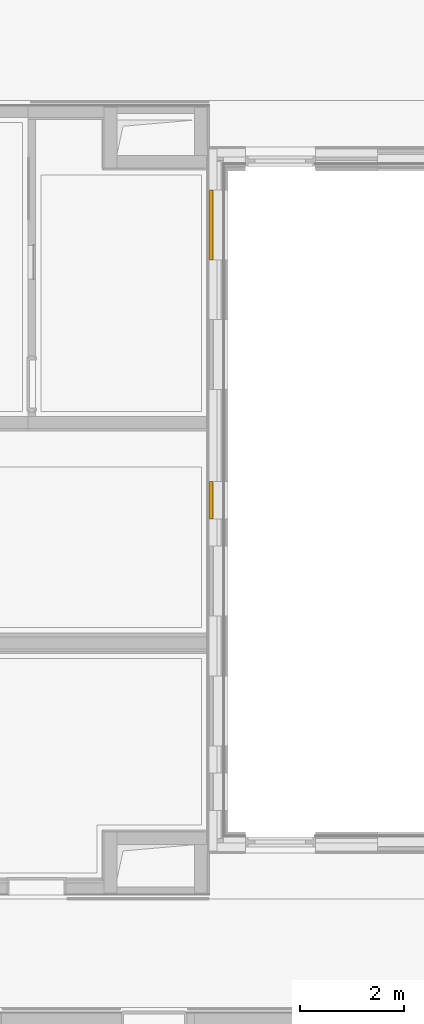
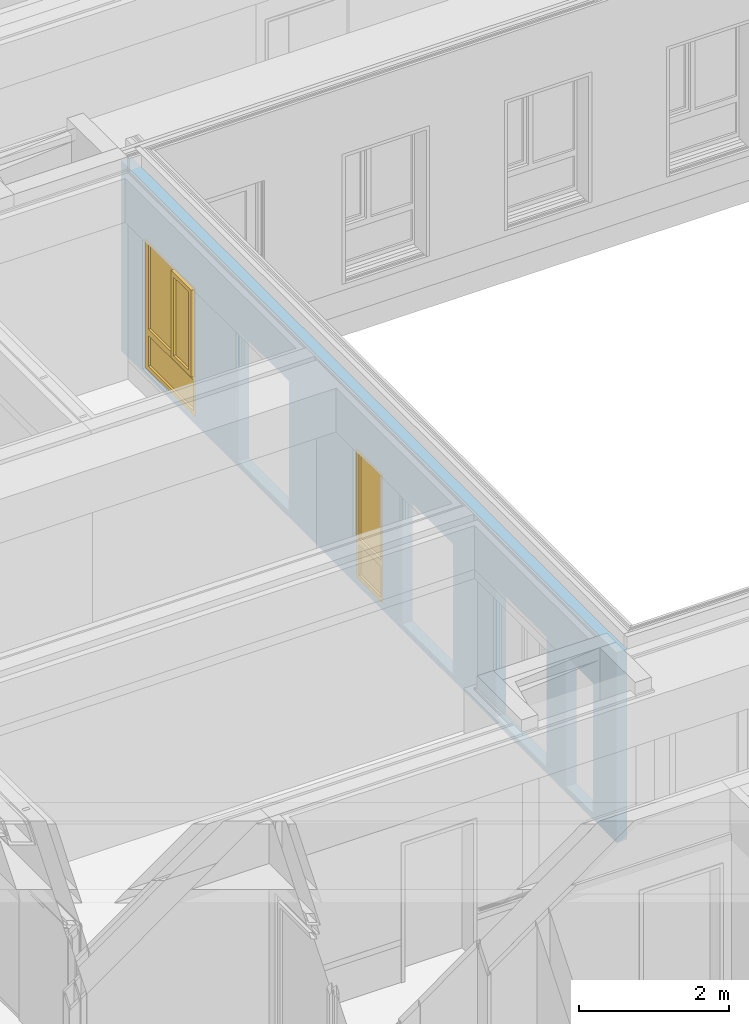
# One storey, part 130 of 207: 2 windows, 6 openings, plus 1 element that does not belong to this part.
"""IFC4 building model written with IfcOpenShell, lengths in metres."""

from ifc_helpers import new_model, entity, si_unit, converted_unit, derived_unit, frame, frame_2d, origin, origin_with_axes, place, context, subcontext, project, spatial, polyline, rectangle, outline, extrude, closed_shell, open_shell, surface_model, source, transform, mapped, material, element, fill, save


model = new_model("IFC4")

# Units and contexts
model_context = context("Model", 3, precision=1e-05, world=origin())
body_context = subcontext(model_context, "Body", "Model", "MODEL_VIEW")
ifc_project = project(units=[si_unit("LENGTHUNIT", "METRE"), si_unit("AREAUNIT", "SQUARE_METRE"), si_unit("VOLUMEUNIT", "CUBIC_METRE"), si_unit("MASSUNIT", "GRAM", prefix="KILO"), converted_unit("PLANEANGLEUNIT", "DEGREE", entity("IfcPlaneAngleMeasure", 0.0174532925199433), si_unit("PLANEANGLEUNIT", "RADIAN"), dimensions=[0, 0, 0, 0, 0, 0, 0]), derived_unit("THERMALTRANSMITTANCEUNIT", [(si_unit("POWERUNIT", "WATT"), 1), (si_unit("THERMODYNAMICTEMPERATUREUNIT", "KELVIN"), -1), (si_unit("LENGTHUNIT", "METRE"), -2)]), derived_unit("VOLUMETRICFLOWRATEUNIT", [(si_unit("LENGTHUNIT", "METRE"), 3), (converted_unit("TIMEUNIT", "hour", entity("IfcTimeMeasure", 3600.0), si_unit("TIMEUNIT", "SECOND"), dimensions=[0, 0, 1, 0, 0, 0, 0]), -1), (si_unit("LENGTHUNIT", "METRE"), -1)])], contexts=[model_context])

# Site, building, storey
site_placement = place(None, origin())
site = spatial("IfcSite", under=ifc_project, at=site_placement, Name="Psychiatrie Neubau Wunstorf", CompositionType="ELEMENT")
building_placement = place(site_placement, origin())
building = spatial("IfcBuilding", under=site, at=building_placement, Name="Neubau H2 Stationsgebäude", CompositionType="ELEMENT")
storey_placement = place(building_placement, frame((0.0, 0.0, -0.2)))
storey = spatial("IfcBuildingStorey", under=building, at=storey_placement, Name="H2 Ebene 0", CompositionType="ELEMENT", Elevation=-0.2)

# Wall, openings, windows
ifc_material = material(Name="WA-HD")
wall_placement = place(storey_placement, frame((79.175, 21.84, 0.5), z_axis=(0.0, 0.0, 1.0), x_axis=(0.0, -1.0, 0.0)))
wall = element("IfcWall", 1, at=wall_placement, inside=storey, material=ifc_material, context=body_context, shape_type="SweptSolid", body=[
    extrude(rectangle(XDim=13.23, YDim=0.16, at=frame_2d((6.615, 0.08), x_axis=(1.0, 0.0))), origin_with_axes(), (0.0, 0.0, 1.0), 3.1),
])
opening_1_placement = place(wall_placement, frame((12.6049999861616, 0.16, 0.1), z_axis=(0.0, -1.0, 0.0), x_axis=(0.0, 0.0, 1.0)))
element("IfcOpeningElement", 2, at=opening_1_placement, cuts=wall, Name="Fensteröffnung", ObjectType="Opening", context=body_context, shape_type="SweptSolid", body=[
    extrude(outline(polyline([(2.12, 0.725), (2.12, 0.0), (0.0, 0.0), (0.0, 0.725), (2.12, 0.725)])), origin_with_axes(), (0.0, 0.0, 1.0), 0.16),
])
opening_2_placement = place(wall_placement, frame((11.3565865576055, 0.16, 0.1), z_axis=(0.0, -1.0, 0.0), x_axis=(0.0, 0.0, 1.0)))
element("IfcOpeningElement", 3, at=opening_2_placement, cuts=wall, Name="Fensteröffnung", ObjectType="Opening", context=body_context, shape_type="SweptSolid", body=[
    extrude(outline(polyline([(2.12, 1.35), (2.12, 0.0), (0.0, 0.0), (0.0, 1.35), (2.12, 1.35)])), origin_with_axes(), (0.0, 0.0, 1.0), 0.16),
])
opening_3_placement = place(wall_placement, frame((8.85664410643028, 0.16, 0.1), z_axis=(0.0, -1.0, 0.0), x_axis=(0.0, 0.0, 1.0)))
element("IfcOpeningElement", 4, at=opening_3_placement, cuts=wall, Name="Fensteröffnung", ObjectType="Opening", context=body_context, shape_type="SweptSolid", body=[
    extrude(outline(polyline([(2.12, 1.35), (2.12, 0.0), (0.0, 0.0), (0.0, 1.35), (2.12, 1.35)])), origin_with_axes(), (0.0, 0.0, 1.0), 0.16),
])
opening_4_placement = place(wall_placement, frame((4.48200463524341, 0.160000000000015, 0.1), z_axis=(0.0, -1.0, 0.0), x_axis=(0.0, 0.0, 1.0)))
element("IfcOpeningElement", 5, at=opening_4_placement, cuts=wall, Name="Fensteröffnung", ObjectType="Opening", context=body_context, shape_type="SweptSolid", body=[
    extrude(outline(polyline([(2.12, 1.35), (2.12, 0.0), (0.0, 0.0), (0.0, 1.35), (2.12, 1.35)])), origin_with_axes(), (0.0, 0.0, 1.0), 0.16),
])
opening_5_placement = place(wall_placement, frame((1.98244477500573, 0.16, 0.1), z_axis=(0.0, -1.0, 0.0), x_axis=(0.0, 0.0, 1.0)))
opening_5 = element("IfcOpeningElement", 6, at=opening_5_placement, cuts=wall, Name="Fensteröffnung", ObjectType="Opening", context=body_context, shape_type="SweptSolid", body=[
    extrude(outline(polyline([(2.12, 1.35), (2.12, 0.0), (0.0, 0.0), (0.0, 1.35), (2.12, 1.35)])), origin_with_axes(), (0.0, 0.0, 1.0), 0.16),
])
opening_6_placement = place(wall_placement, frame((6.98238722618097, 0.16, 0.1), z_axis=(0.0, -1.0, 0.0), x_axis=(0.0, 0.0, 1.0)))
opening_6 = element("IfcOpeningElement", 7, at=opening_6_placement, cuts=wall, Name="Fensteröffnung", ObjectType="Opening", context=body_context, shape_type="SweptSolid", body=[
    extrude(outline(polyline([(2.12, 0.725), (2.12, 0.0), (0.0, 0.0), (0.0, 0.725), (2.12, 0.725)])), origin_with_axes(), (0.0, 0.0, 1.0), 0.16),
])
shared_shape_1 = source(origin_with_axes(), body_context, "Body", "SurfaceModel", [
    surface_model("IfcShellBasedSurfaceModel", [(1.35000000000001, 0.0, 2.12), (1.35000000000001, 0.0, 0.0), (1.28000000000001, 0.0, 0.0), (1.28000000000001, 0.0, 2.12), (1.35000000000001, 0.0699999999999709, 0.0), (1.35000000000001, 0.0699999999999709, 2.12), (1.28000000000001, 0.0699999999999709, 2.12), (1.28000000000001, 0.0699999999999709, 0.0)], [closed_shell([[[0, 1, 2, 3]], [[4, 5, 6, 7]], [[1, 0, 5, 4]], [[2, 1, 4, 7]], [[3, 2, 7, 6]], [[0, 3, 6, 5]]], orient=[[False], [False], [False], [False], [False], [False]])]),
    surface_model("IfcShellBasedSurfaceModel", [(0.0700000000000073, 0.0, 2.12), (0.0700000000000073, 0.0, 0.0), (0.0, 0.0, 0.0), (0.0, 0.0, 2.12), (0.0700000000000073, 0.0699999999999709, 0.0), (0.0700000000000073, 0.0699999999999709, 2.12), (0.0, 0.0699999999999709, 2.12), (0.0, 0.0699999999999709, 0.0)], [closed_shell([[[0, 1, 2, 3]], [[4, 5, 6, 7]], [[1, 0, 5, 4]], [[2, 1, 4, 7]], [[3, 2, 7, 6]], [[0, 3, 6, 5]]], orient=[[False], [False], [False], [False], [False], [False]])]),
    surface_model("IfcShellBasedSurfaceModel", [(1.28000000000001, 0.0, 0.07), (1.28000000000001, 0.0, 0.0), (0.0700000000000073, 0.0, 0.0), (0.0700000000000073, 0.0, 0.07), (1.28000000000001, 0.0699999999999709, 0.0), (1.28000000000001, 0.0699999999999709, 0.07), (0.0700000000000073, 0.0699999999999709, 0.07), (0.0700000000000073, 0.0699999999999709, 0.0)], [closed_shell([[[0, 1, 2, 3]], [[4, 5, 6, 7]], [[1, 0, 5, 4]], [[2, 1, 4, 7]], [[3, 2, 7, 6]], [[0, 3, 6, 5]]], orient=[[False], [False], [False], [False], [False], [False]])]),
    surface_model("IfcShellBasedSurfaceModel", [(1.28000000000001, 0.0, 2.12), (1.28000000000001, 0.0, 2.05), (0.0700000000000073, 0.0, 2.05), (0.0700000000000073, 0.0, 2.12), (1.28000000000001, 0.0699999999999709, 2.05), (1.28000000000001, 0.0699999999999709, 2.12), (0.0700000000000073, 0.0699999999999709, 2.12), (0.0700000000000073, 0.0699999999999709, 2.05)], [closed_shell([[[0, 1, 2, 3]], [[4, 5, 6, 7]], [[1, 0, 5, 4]], [[2, 1, 4, 7]], [[3, 2, 7, 6]], [[0, 3, 6, 5]]], orient=[[False], [False], [False], [False], [False], [False]])]),
    surface_model("IfcShellBasedSurfaceModel", [(1.28000000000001, 0.0, 0.67), (1.28000000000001, 0.0, 0.57), (0.0700000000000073, 0.0, 0.57), (0.0700000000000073, 0.0, 0.67), (1.28000000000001, 0.0699999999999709, 0.57), (1.28000000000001, 0.0699999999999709, 0.67), (0.0700000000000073, 0.0699999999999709, 0.67), (0.0700000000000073, 0.0699999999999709, 0.57)], [closed_shell([[[0, 1, 2, 3]], [[4, 5, 6, 7]], [[1, 0, 5, 4]], [[2, 1, 4, 7]], [[3, 2, 7, 6]], [[0, 3, 6, 5]]], orient=[[False], [False], [False], [False], [False], [False]])]),
    surface_model("IfcShellBasedSurfaceModel", [(1.28000000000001, 0.0349999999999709, 0.07), (0.0700000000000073, 0.0349999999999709, 0.07), (0.0700000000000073, 0.0349999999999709, 0.57), (1.28000000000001, 0.0349999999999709, 0.57)], [open_shell([[[0, 1, 2, 3]]], orient=[[False]])]),
    surface_model("IfcShellBasedSurfaceModel", [(0.780000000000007, 0.0, 2.05), (0.780000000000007, 0.0, 0.67), (0.710000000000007, 0.0, 0.67), (0.710000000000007, 0.0, 2.05), (0.780000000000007, 0.0699999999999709, 0.67), (0.780000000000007, 0.0699999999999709, 2.05), (0.710000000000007, 0.0699999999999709, 2.05), (0.710000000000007, 0.0699999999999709, 0.67)], [closed_shell([[[0, 1, 2, 3]], [[4, 5, 6, 7]], [[1, 0, 5, 4]], [[2, 1, 4, 7]], [[3, 2, 7, 6]], [[0, 3, 6, 5]]], orient=[[False], [False], [False], [False], [False], [False]])]),
    surface_model("IfcShellBasedSurfaceModel", [(1.30000000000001, -0.0500000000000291, 2.07), (1.30000000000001, -0.0500000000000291, 0.65), (1.23000000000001, -0.0500000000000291, 0.65), (1.23000000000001, -0.0500000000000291, 2.07), (1.30000000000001, 0.0199999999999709, 0.65), (1.30000000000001, 0.0199999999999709, 2.07), (1.23000000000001, 0.0199999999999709, 2.07), (1.23000000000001, 0.0199999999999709, 0.65)], [closed_shell([[[0, 1, 2, 3]], [[4, 5, 6, 7]], [[1, 0, 5, 4]], [[2, 1, 4, 7]], [[3, 2, 7, 6]], [[0, 3, 6, 5]]], orient=[[False], [False], [False], [False], [False], [False]])]),
    surface_model("IfcShellBasedSurfaceModel", [(0.830000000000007, -0.0500000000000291, 2.07), (0.830000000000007, -0.0500000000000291, 0.65), (0.760000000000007, -0.0500000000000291, 0.65), (0.760000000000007, -0.0500000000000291, 2.07), (0.830000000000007, 0.0199999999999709, 0.65), (0.830000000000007, 0.0199999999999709, 2.07), (0.760000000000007, 0.0199999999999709, 2.07), (0.760000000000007, 0.0199999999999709, 0.65)], [closed_shell([[[0, 1, 2, 3]], [[4, 5, 6, 7]], [[1, 0, 5, 4]], [[2, 1, 4, 7]], [[3, 2, 7, 6]], [[0, 3, 6, 5]]], orient=[[False], [False], [False], [False], [False], [False]])]),
    surface_model("IfcShellBasedSurfaceModel", [(1.23000000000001, -0.0500000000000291, 0.72), (1.23000000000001, -0.0500000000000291, 0.65), (0.830000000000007, -0.0500000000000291, 0.65), (0.830000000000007, -0.0500000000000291, 0.72), (1.23000000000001, 0.0199999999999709, 0.65), (1.23000000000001, 0.0199999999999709, 0.72), (0.830000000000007, 0.0199999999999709, 0.72), (0.830000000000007, 0.0199999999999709, 0.65)], [closed_shell([[[0, 1, 2, 3]], [[4, 5, 6, 7]], [[1, 0, 5, 4]], [[2, 1, 4, 7]], [[3, 2, 7, 6]], [[0, 3, 6, 5]]], orient=[[False], [False], [False], [False], [False], [False]])]),
    surface_model("IfcShellBasedSurfaceModel", [(1.23000000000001, -0.0500000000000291, 2.07), (1.23000000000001, -0.0500000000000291, 2.0), (0.830000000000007, -0.0500000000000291, 2.0), (0.830000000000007, -0.0500000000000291, 2.07), (1.23000000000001, 0.0199999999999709, 2.0), (1.23000000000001, 0.0199999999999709, 2.07), (0.830000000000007, 0.0199999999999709, 2.07), (0.830000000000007, 0.0199999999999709, 2.0)], [closed_shell([[[0, 1, 2, 3]], [[4, 5, 6, 7]], [[1, 0, 5, 4]], [[2, 1, 4, 7]], [[3, 2, 7, 6]], [[0, 3, 6, 5]]], orient=[[False], [False], [False], [False], [False], [False]])]),
    surface_model("IfcShellBasedSurfaceModel", [(0.710000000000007, 0.0349999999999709, 0.67), (0.0700000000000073, 0.0349999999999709, 0.67), (0.0700000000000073, 0.0349999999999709, 2.05), (0.710000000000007, 0.0349999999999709, 2.05)], [open_shell([[[0, 1, 2, 3]]], orient=[[False]])]),
    surface_model("IfcShellBasedSurfaceModel", [(1.23000000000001, -0.0150000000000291, 0.72), (0.830000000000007, -0.0150000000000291, 0.72), (0.830000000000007, -0.0150000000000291, 2.0), (1.23000000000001, -0.0150000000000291, 2.0)], [open_shell([[[0, 1, 2, 3]]], orient=[[False]])]),
])
window_1_placement = place(opening_5_placement, frame((0.0, 1.35, 0.146), z_axis=(1.0, 0.0, 0.0), x_axis=(0.0, -1.0, 0.0)))
window_1 = element("IfcWindow", 8, at=window_1_placement, inside=storey, Name="Fenster", OverallHeight=2.12, OverallWidth=1.35, PartitioningType="USERDEFINED", PredefinedType="WINDOW", context=body_context, shape_type="MappedRepresentation", body=[
    mapped(shared_shape_1, transform((0.0, 0.0, 0.0), x_axis=(1.0, 0.0, 0.0), y_axis=(0.0, 1.0, 0.0), z_axis=(0.0, 0.0, 1.0), scale=1.0)),
])
fill(opening_5, window_1)
shared_shape_2 = source(origin_with_axes(), body_context, "Body", "SurfaceModel", [
    surface_model("IfcShellBasedSurfaceModel", [(0.725000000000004, 0.0, 2.12), (0.725000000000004, 0.0, 0.0), (0.655000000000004, 0.0, 0.0), (0.655000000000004, 0.0, 2.12), (0.725000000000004, 0.0699999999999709, 0.0), (0.725000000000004, 0.0699999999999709, 2.12), (0.655000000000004, 0.0699999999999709, 2.12), (0.655000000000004, 0.0699999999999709, 0.0)], [closed_shell([[[0, 1, 2, 3]], [[4, 5, 6, 7]], [[1, 0, 5, 4]], [[2, 1, 4, 7]], [[3, 2, 7, 6]], [[0, 3, 6, 5]]], orient=[[False], [False], [False], [False], [False], [False]])]),
    surface_model("IfcShellBasedSurfaceModel", [(0.0700000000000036, 0.0, 2.12), (0.0700000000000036, 0.0, 0.0), (0.0, 0.0, 0.0), (0.0, 0.0, 2.12), (0.0700000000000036, 0.0699999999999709, 0.0), (0.0700000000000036, 0.0699999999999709, 2.12), (0.0, 0.0699999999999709, 2.12), (0.0, 0.0699999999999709, 0.0)], [closed_shell([[[0, 1, 2, 3]], [[4, 5, 6, 7]], [[1, 0, 5, 4]], [[2, 1, 4, 7]], [[3, 2, 7, 6]], [[0, 3, 6, 5]]], orient=[[False], [False], [False], [False], [False], [False]])]),
    surface_model("IfcShellBasedSurfaceModel", [(0.655000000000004, 0.0, 0.07), (0.655000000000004, 0.0, 0.0), (0.0700000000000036, 0.0, 0.0), (0.0700000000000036, 0.0, 0.07), (0.655000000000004, 0.0699999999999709, 0.0), (0.655000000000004, 0.0699999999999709, 0.07), (0.0700000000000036, 0.0699999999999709, 0.07), (0.0700000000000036, 0.0699999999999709, 0.0)], [closed_shell([[[0, 1, 2, 3]], [[4, 5, 6, 7]], [[1, 0, 5, 4]], [[2, 1, 4, 7]], [[3, 2, 7, 6]], [[0, 3, 6, 5]]], orient=[[False], [False], [False], [False], [False], [False]])]),
    surface_model("IfcShellBasedSurfaceModel", [(0.655000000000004, 0.0, 2.12), (0.655000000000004, 0.0, 2.05), (0.0700000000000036, 0.0, 2.05), (0.0700000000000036, 0.0, 2.12), (0.655000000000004, 0.0699999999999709, 2.05), (0.655000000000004, 0.0699999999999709, 2.12), (0.0700000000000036, 0.0699999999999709, 2.12), (0.0700000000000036, 0.0699999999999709, 2.05)], [closed_shell([[[0, 1, 2, 3]], [[4, 5, 6, 7]], [[1, 0, 5, 4]], [[2, 1, 4, 7]], [[3, 2, 7, 6]], [[0, 3, 6, 5]]], orient=[[False], [False], [False], [False], [False], [False]])]),
    surface_model("IfcShellBasedSurfaceModel", [(0.655000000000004, 0.0, 0.67), (0.655000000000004, 0.0, 0.57), (0.0700000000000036, 0.0, 0.57), (0.0700000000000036, 0.0, 0.67), (0.655000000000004, 0.0699999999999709, 0.57), (0.655000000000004, 0.0699999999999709, 0.67), (0.0700000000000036, 0.0699999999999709, 0.67), (0.0700000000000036, 0.0699999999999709, 0.57)], [closed_shell([[[0, 1, 2, 3]], [[4, 5, 6, 7]], [[1, 0, 5, 4]], [[2, 1, 4, 7]], [[3, 2, 7, 6]], [[0, 3, 6, 5]]], orient=[[False], [False], [False], [False], [False], [False]])]),
    surface_model("IfcShellBasedSurfaceModel", [(0.655000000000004, 0.0349999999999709, 0.07), (0.0700000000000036, 0.0349999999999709, 0.07), (0.0700000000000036, 0.0349999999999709, 0.57), (0.655000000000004, 0.0349999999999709, 0.57)], [open_shell([[[0, 1, 2, 3]]], orient=[[False]])]),
    surface_model("IfcShellBasedSurfaceModel", [(0.655000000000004, 0.0349999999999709, 0.67), (0.0700000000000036, 0.0349999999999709, 0.67), (0.0700000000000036, 0.0349999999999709, 2.05), (0.655000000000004, 0.0349999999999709, 2.05)], [open_shell([[[0, 1, 2, 3]]], orient=[[False]])]),
])
window_2_placement = place(opening_6_placement, frame((0.0, 0.725, 0.146), z_axis=(1.0, 0.0, 0.0), x_axis=(0.0, -1.0, 0.0)))
window_2 = element("IfcWindow", 9, at=window_2_placement, inside=storey, Name="Fenster", OverallHeight=2.12, OverallWidth=0.725, PartitioningType="USERDEFINED", PredefinedType="WINDOW", context=body_context, shape_type="MappedRepresentation", body=[
    mapped(shared_shape_2, transform((0.0, 0.0, 0.0), x_axis=(1.0, 0.0, 0.0), y_axis=(0.0, 1.0, 0.0), z_axis=(0.0, 0.0, 1.0), scale=1.0)),
])
fill(opening_6, window_2)

save(model, "model.ifc")
